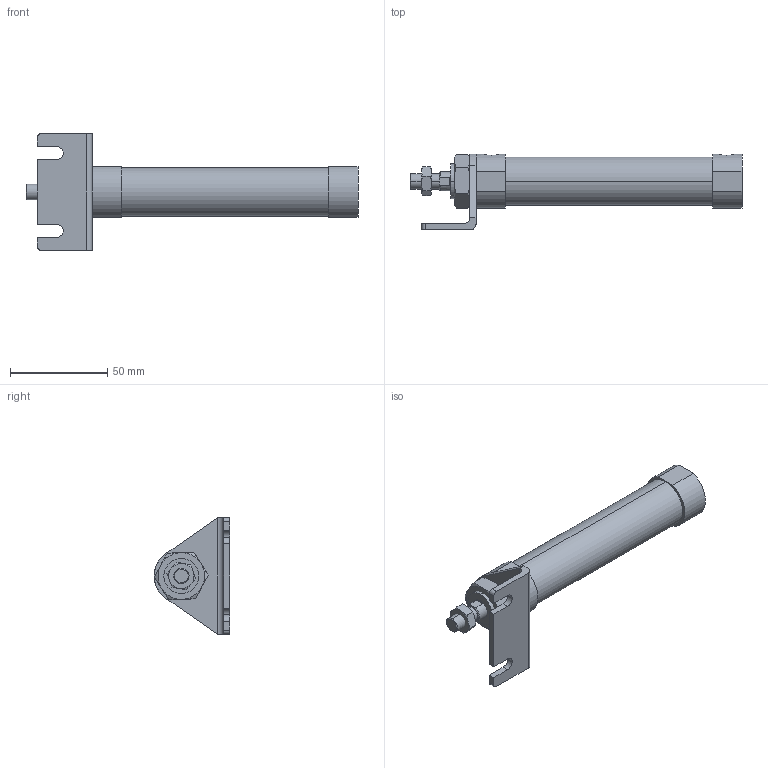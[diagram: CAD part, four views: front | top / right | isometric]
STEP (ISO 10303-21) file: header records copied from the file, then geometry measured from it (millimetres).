
FILE_DESCRIPTION (( 'STEP AP203' ), '1' );
FILE_NAME ('JGND2-20-75-L.STEP', '2016-08-04T02:24:46', ( '' ), ( '' ), 'SwSTEP 2.0', 'SolidWorks 2014', '' );
FILE_SCHEMA (( 'CONFIG_CONTROL_DESIGN' ));
Length unit declared in the file: millimetre
Products named in the file (5): JGND2-20-75-L; J#2-20-L; J#2-20-75(P)
Assembly tree (4 placements, depth 2):
  JGND2-20-75-L
    J#2-20-75(P)
    (unnamed)
    (unnamed)
    J#2-20-L
Bounding box: 171 x 39 x 60 mm (x, y, z)
Volume: 84801.4 mm3; surface area: 22725.8 mm2
Topology: 4 solids, 4 shells, 111 faces, 255 edges, 160 vertices
Faces by surface type: plane 49, cylinder 34, torus 24, cone 4
Entity records: 4004 total; most frequent: CARTESIAN_POINT 989, DIRECTION 531, ORIENTED_EDGE 510, EDGE_CURVE 255, AXIS2_PLACEMENT_3D 214, VERTEX_POINT 160, EDGE_LOOP 125, FACE_OUTER_BOUND 111
